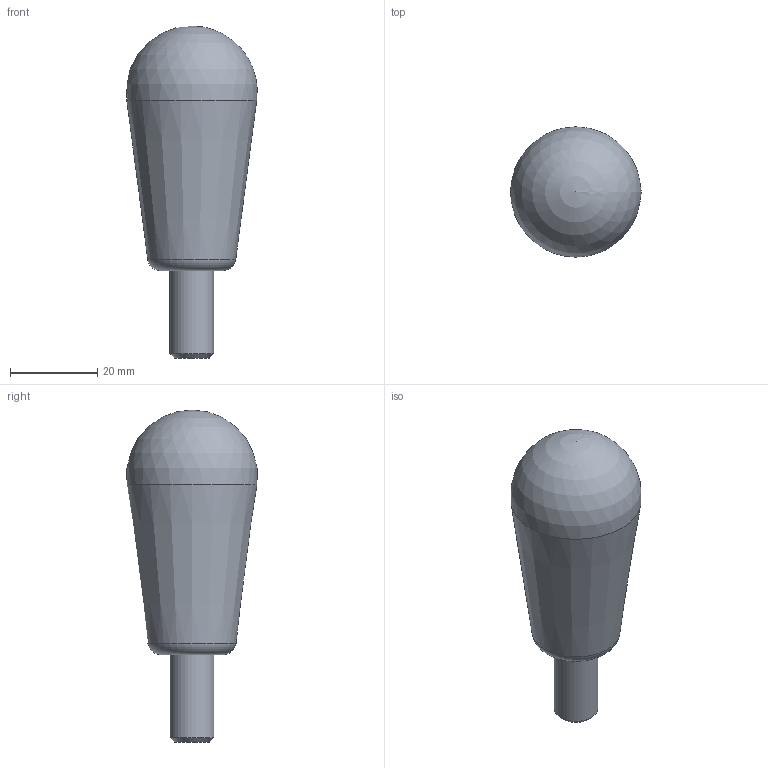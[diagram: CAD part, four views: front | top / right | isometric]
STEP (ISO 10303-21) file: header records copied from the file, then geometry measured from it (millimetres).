
FILE_DESCRIPTION( ('This file contains a STEP AP42 implementation' ,'as created by ZW3D STEP Interface translator.') ,'2;1' );
FILE_NAME( 'Galka stozkowa B30.S.stp' ,'26 4 3. 95828', (''), ('ZWCAD Software Co.'), 'Version 1.0', 'ZW3D to STEP translator', '' );
FILE_SCHEMA(('AP242_MANAGED_MODEL_BASED_3D_ENGINEERING_MIM_LF { 1 0 10303 442 1 1 4 }'));
Length unit declared in the file: millimetre
Products named in the file (1): 0
Bounding box: 29.86 x 29.81 x 76 mm (x, y, z)
Volume: 28750.3 mm3; surface area: 8515.8 mm2
Topology: 2 solids, 2 shells, 24 faces, 52 edges, 34 vertices
Faces by surface type: plane 18, cone 2, cylinder 2, torus 1, sphere 1
Full cylindrical faces by diameter (mm): 10 x2
Entity records: 699 total; most frequent: DIRECTION 112, CARTESIAN_POINT 109, ORIENTED_EDGE 100, EDGE_CURVE 50, VECTOR 40, LINE 40, AXIS2_PLACEMENT_3D 36, VERTEX_POINT 33
